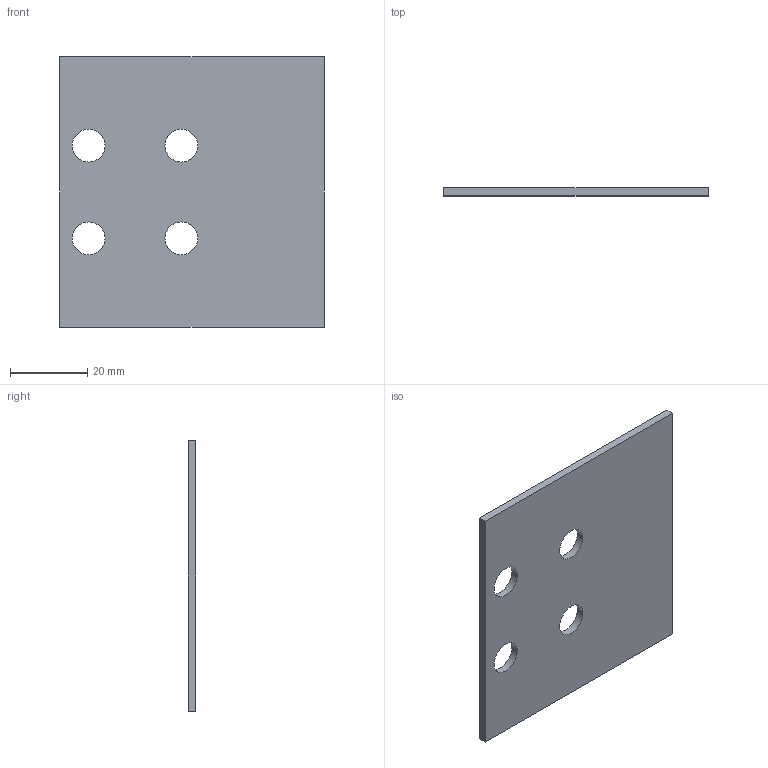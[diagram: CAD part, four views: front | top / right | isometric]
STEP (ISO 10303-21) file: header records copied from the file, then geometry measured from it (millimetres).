
FILE_DESCRIPTION( ( '' ), '1' );
FILE_NAME( 'E:/04 嬴檜蠱滌/0404 ZIMMER/040414 ZIMMER CAD download/Adapt plate/PLK for LKP, LKPS/PLK35-2.stp', '2020-04-16T10:19:51', ( '' ), ( '' ), ' ', ' ', ' ' );
FILE_SCHEMA( ( 'automotive_design' ) );
Length unit declared in the file: millimetre
Products named in the file (1): 1
Bounding box: 68.5 x 2 x 70 mm (x, y, z)
Volume: 9136 mm3; surface area: 9903.7 mm2
Topology: 1 solids, 1 shells, 14 faces, 36 edges, 24 vertices
Faces by surface type: cylinder 8, plane 6
Entity records: 888 total; most frequent: DIRECTION 82, STYLED_ITEM 75, PRESENTATION_STYLE_ASSIGNMENT 75, CARTESIAN_POINT 75, COLOUR_RGB 75, ORIENTED_EDGE 72, EDGE_CURVE 36, CURVE_STYLE 36
